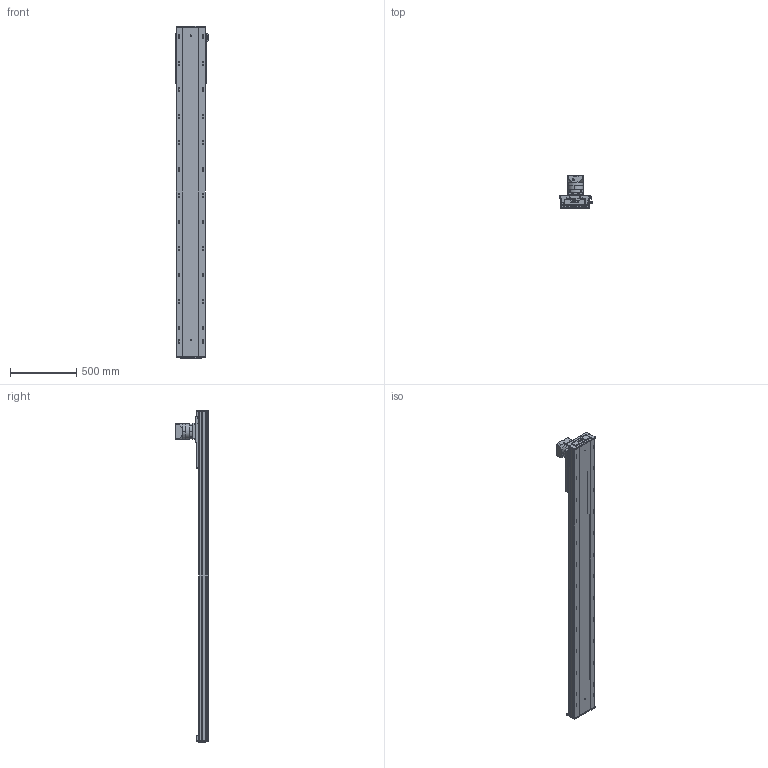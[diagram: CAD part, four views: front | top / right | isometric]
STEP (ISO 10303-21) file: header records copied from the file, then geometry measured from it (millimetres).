
FILE_DESCRIPTION (( 'STEP AP203' ), '1' );
FILE_NAME ('RY220-C-300-UK.SLDASM_2000.step', '2022-08-01T05:59:47', ( '' ), ( '' ), 'SwSTEP 2.0', 'SolidWorks 2016', '' );
FILE_SCHEMA (( 'CONFIG_CONTROL_DESIGN' ));
Length unit declared in the file: millimetre
Products named in the file (10): RY220喘沭俋离覜茼え; PF115L1-S2-22-58-110-145-M8; RY220-齿条模组电机安装板; RY220菁釱MK-300_2000; RY220-C-300-UK.SLDASM_2000; RY220喘沭賑輸; 滅袉蝶輸ㄗG412隅秶ㄘ; RY220喘沭綴裔啣; 覜茼ん674; RY140直线电机感应器674光电安装座
Assembly tree (12 placements, depth 2):
  RY220-C-300-UK.SLDASM_2000
    RY220菁釱MK-300_2000
    RY220喘沭賑輸
    RY220-齿条模组电机安装板
    PF115L1-S2-22-58-110-145-M8
    RY220喘沭綴裔啣  x2
    滅袉蝶輸ㄗG412隅秶ㄘ  x2
    RY140直线电机感应器674光电安装座
    覜茼ん674  x2
    RY220喘沭俋离覜茼え
Bounding box: 247 x 244.5 x 2509 mm (x, y, z)
Volume: 17774907.4 mm3; surface area: 3607793.5 mm2
Topology: 18 solids, 26 shells, 2208 faces, 5939 edges, 3734 vertices
Faces by surface type: cylinder 1051, plane 751, cone 244, bspline 162
Entity records: 70093 total; most frequent: CARTESIAN_POINT 19126, DIRECTION 10491, ORIENTED_EDGE 10290, EDGE_CURVE 5145, AXIS2_PLACEMENT_3D 4007, VERTEX_POINT 3360, EDGE_LOOP 2557, VECTOR 2477
